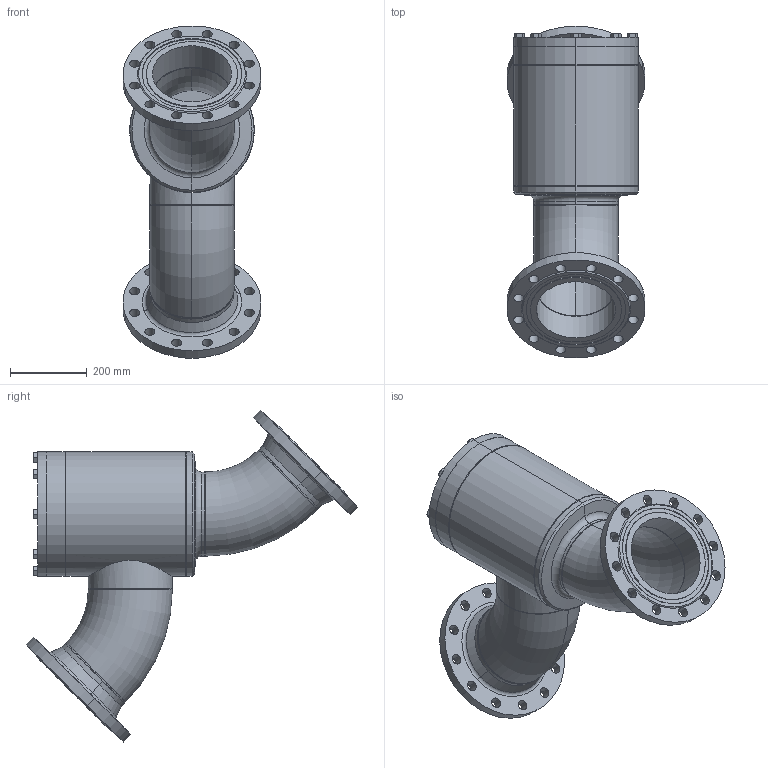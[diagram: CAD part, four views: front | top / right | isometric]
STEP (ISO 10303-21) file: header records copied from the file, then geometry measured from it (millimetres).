
FILE_DESCRIPTION (( 'STEP AP214' ), '1' );
FILE_NAME ('SS52320C23-DN200_DIN-FL-N_PS25.STEP', '2006-05-02T05:45:30', ( 'Herr Grams' ), ( 'AWP GmbH' ), 'SwSTEP 2.0', 'SolidWorks 2002296', '' );
FILE_SCHEMA (( 'AUTOMOTIVE_DESIGN' ));
Length unit declared in the file: millimetre
Products named in the file (18): SS52320C23-DN200_DIN-FL-N_PS25; SS52300B23_Deck+Schr-DN200_Standard; Deckel52300B23-DN200_Standard; Sechskantschraube-DIN933_M16x 45; Gehäuse-kpl16320-DN200_DIN_PS25_Standard; Gehäuse-kpl16300-DN200_R1_Standard; Gehäuse16300-DN200_Standard; Kopfstück16300-DN200_Standard; Boden16300-DN200_Standard; Rohrstutzen-A16300-DN200_R1_Standard; Rohrbogen 45°_Rohrbogen-DN200-45°; bead-DN200-3_Standard; bead-DN200-2_Standard; bead-DN200-4_Standard; bead-DN200-1_Standard; bead-DN200-8_Standard; bead-DN200-7_Standard; Flansch-DIN2634-Nut_PS25_DIN-Flansch-DN200_PS25-Nut
Assembly tree (26 placements, depth 4):
  SS52320C23-DN200_DIN-FL-N_PS25
    Gehäuse-kpl16320-DN200_DIN_PS25_Standard
      Flansch-DIN2634-Nut_PS25_DIN-Flansch-DN200_PS25-Nut  x2
      bead-DN200-8_Standard
      bead-DN200-7_Standard
      Gehäuse-kpl16300-DN200_R1_Standard
        bead-DN200-3_Standard
        Rohrbogen 45°_Rohrbogen-DN200-45°  x2
        bead-DN200-2_Standard
        Gehäuse16300-DN200_Standard
        Kopfstück16300-DN200_Standard
        Rohrstutzen-A16300-DN200_R1_Standard
        bead-DN200-4_Standard
        bead-DN200-1_Standard
        Boden16300-DN200_Standard
    SS52300B23_Deck+Schr-DN200_Standard
      Sechskantschraube-DIN933_M16x 45  x8
      Deckel52300B23-DN200_Standard
Bounding box: 358.63 x 863.9 x 864.9 mm (x, y, z)
Volume: 15438704.2 mm3; surface area: 2622062.9 mm2
Topology: 23 solids, 23 shells, 415 faces, 960 edges, 582 vertices
Faces by surface type: cone 138, cylinder 129, plane 110, bspline 24, torus 14
Entity records: 10911 total; most frequent: CARTESIAN_POINT 5668, DIRECTION 942, ORIENTED_EDGE 888, EDGE_CURVE 444, AXIS2_PLACEMENT_3D 416, VERTEX_POINT 278, EDGE_LOOP 244, CIRCLE 222
